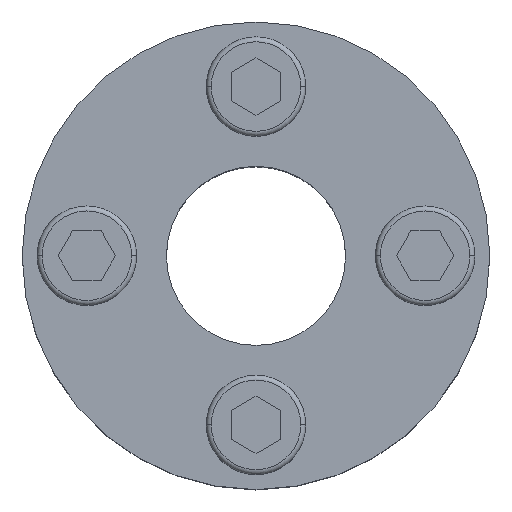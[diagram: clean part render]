
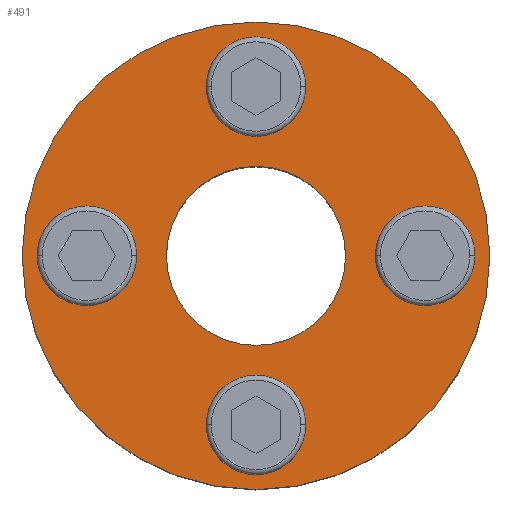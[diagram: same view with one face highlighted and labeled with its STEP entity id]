
A CAD part, top view. The second image highlights one B-rep face of the part: STEP entity #491.
In plain terms, the highlighted planar face has unit normal (0, 0, 1).
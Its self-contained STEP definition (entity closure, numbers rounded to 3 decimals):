
#12 = AXIS2_PLACEMENT_3D ( 'NONE', #852, #78, #349 ) ;
#27 = EDGE_LOOP ( 'NONE', ( #1366, #833 ) ) ;
#37 = CARTESIAN_POINT ( 'NONE',  ( -9., 0., 0. ) ) ;
#56 = CARTESIAN_POINT ( 'NONE',  ( -23.5, 0., 0. ) ) ;
#63 = FACE_BOUND ( 'NONE', #230, .T. ) ;
#75 = DIRECTION ( 'NONE',  ( -1., 0., 0. ) ) ;
#78 = DIRECTION ( 'NONE',  ( 0., 0., 1. ) ) ;
#81 = DIRECTION ( 'NONE',  ( -1., 0., 0. ) ) ;
#103 = AXIS2_PLACEMENT_3D ( 'NONE', #271, #266, #1313 ) ;
#141 = ORIENTED_EDGE ( 'NONE', *, *, #1276, .T. ) ;
#194 = EDGE_CURVE ( 'NONE', #1623, #1508, #1186, .T. ) ;
#220 = ORIENTED_EDGE ( 'NONE', *, *, #706, .T. ) ;
#221 = EDGE_CURVE ( 'NONE', #1272, #887, #434, .T. ) ;
#230 = EDGE_LOOP ( 'NONE', ( #1087, #565 ) ) ;
#231 = EDGE_CURVE ( 'NONE', #1585, #1513, #477, .T. ) ;
#252 = VERTEX_POINT ( 'NONE', #56 ) ;
#263 = CIRCLE ( 'NONE', #12, 5. ) ;
#266 = DIRECTION ( 'NONE',  ( 0., 0., 1. ) ) ;
#271 = CARTESIAN_POINT ( 'NONE',  ( 0., 0., 0. ) ) ;
#285 = EDGE_CURVE ( 'NONE', #1508, #1623, #838, .T. ) ;
#318 = CARTESIAN_POINT ( 'NONE',  ( 23.5, 0., 0. ) ) ;
#324 = DIRECTION ( 'NONE',  ( 0., 0., 1. ) ) ;
#349 = DIRECTION ( 'NONE',  ( -1., 0., 0. ) ) ;
#362 = CIRCLE ( 'NONE', #1637, 5. ) ;
#366 = CARTESIAN_POINT ( 'NONE',  ( 0., 0., 0. ) ) ;
#427 = EDGE_CURVE ( 'NONE', #605, #666, #1532, .T. ) ;
#434 = CIRCLE ( 'NONE', #1604, 9. ) ;
#438 = AXIS2_PLACEMENT_3D ( 'NONE', #1256, #982, #81 ) ;
#458 = CARTESIAN_POINT ( 'NONE',  ( -5., -17., 0. ) ) ;
#465 = DIRECTION ( 'NONE',  ( 1., 0., 0. ) ) ;
#470 = DIRECTION ( 'NONE',  ( 0., 0., 1. ) ) ;
#477 = CIRCLE ( 'NONE', #438, 5. ) ;
#491 = ADVANCED_FACE ( 'NONE', ( #508, #63, #1243, #1504, #956, #834 ), #609, .F. ) ;
#494 = AXIS2_PLACEMENT_3D ( 'NONE', #1416, #883, #1001 ) ;
#508 = FACE_BOUND ( 'NONE', #1427, .T. ) ;
#547 = DIRECTION ( 'NONE',  ( -1., 0., 0. ) ) ;
#565 = ORIENTED_EDGE ( 'NONE', *, *, #1618, .F. ) ;
#584 = ORIENTED_EDGE ( 'NONE', *, *, #221, .F. ) ;
#589 = ORIENTED_EDGE ( 'NONE', *, *, #1471, .F. ) ;
#605 = VERTEX_POINT ( 'NONE', #753 ) ;
#609 = PLANE ( 'NONE',  #1136 ) ;
#634 = ORIENTED_EDGE ( 'NONE', *, *, #1148, .F. ) ;
#666 = VERTEX_POINT ( 'NONE', #1163 ) ;
#674 = CIRCLE ( 'NONE', #879, 23.5 ) ;
#699 = CARTESIAN_POINT ( 'NONE',  ( 0., -17., 0. ) ) ;
#706 = EDGE_CURVE ( 'NONE', #1345, #252, #1143, .T. ) ;
#717 = CARTESIAN_POINT ( 'NONE',  ( -17., 0., 0. ) ) ;
#753 = CARTESIAN_POINT ( 'NONE',  ( 5., 17., 0. ) ) ;
#794 = ORIENTED_EDGE ( 'NONE', *, *, #194, .F. ) ;
#797 = DIRECTION ( 'NONE',  ( 1., 0., 0. ) ) ;
#800 = CARTESIAN_POINT ( 'NONE',  ( 17., 0., 0. ) ) ;
#812 = DIRECTION ( 'NONE',  ( 0., 0., 1. ) ) ;
#822 = AXIS2_PLACEMENT_3D ( 'NONE', #699, #470, #1357 ) ;
#828 = VERTEX_POINT ( 'NONE', #1431 ) ;
#832 = DIRECTION ( 'NONE',  ( 0., 0., 1. ) ) ;
#833 = ORIENTED_EDGE ( 'NONE', *, *, #231, .F. ) ;
#834 = FACE_OUTER_BOUND ( 'NONE', #1420, .T. ) ;
#838 = CIRCLE ( 'NONE', #843, 5. ) ;
#843 = AXIS2_PLACEMENT_3D ( 'NONE', #967, #832, #1371 ) ;
#846 = DIRECTION ( 'NONE',  ( -1., 0., 0. ) ) ;
#850 = EDGE_CURVE ( 'NONE', #1683, #828, #1479, .T. ) ;
#852 = CARTESIAN_POINT ( 'NONE',  ( 0., 17., 0. ) ) ;
#863 = CARTESIAN_POINT ( 'NONE',  ( 5., -17., 0. ) ) ;
#879 = AXIS2_PLACEMENT_3D ( 'NONE', #1041, #926, #797 ) ;
#883 = DIRECTION ( 'NONE',  ( 0., 0., 1. ) ) ;
#887 = VERTEX_POINT ( 'NONE', #37 ) ;
#888 = CARTESIAN_POINT ( 'NONE',  ( 12., 0., 0. ) ) ;
#926 = DIRECTION ( 'NONE',  ( 0., 0., 1. ) ) ;
#927 = AXIS2_PLACEMENT_3D ( 'NONE', #1650, #996, #75 ) ;
#936 = EDGE_LOOP ( 'NONE', ( #794, #1468 ) ) ;
#956 = FACE_BOUND ( 'NONE', #1241, .T. ) ;
#958 = AXIS2_PLACEMENT_3D ( 'NONE', #800, #812, #547 ) ;
#967 = CARTESIAN_POINT ( 'NONE',  ( 0., -17., 0. ) ) ;
#980 = AXIS2_PLACEMENT_3D ( 'NONE', #366, #983, #465 ) ;
#982 = DIRECTION ( 'NONE',  ( 0., 0., 1. ) ) ;
#983 = DIRECTION ( 'NONE',  ( 0., 0., 1. ) ) ;
#996 = DIRECTION ( 'NONE',  ( 0., 0., 1. ) ) ;
#998 = CIRCLE ( 'NONE', #494, 5. ) ;
#1001 = DIRECTION ( 'NONE',  ( -1., 0., 0. ) ) ;
#1041 = CARTESIAN_POINT ( 'NONE',  ( 0., 0., 0. ) ) ;
#1087 = ORIENTED_EDGE ( 'NONE', *, *, #850, .F. ) ;
#1101 = DIRECTION ( 'NONE',  ( 0., 0., -1. ) ) ;
#1136 = AXIS2_PLACEMENT_3D ( 'NONE', #1645, #1101, #1523 ) ;
#1143 = CIRCLE ( 'NONE', #103, 23.5 ) ;
#1145 = ORIENTED_EDGE ( 'NONE', *, *, #427, .F. ) ;
#1148 = EDGE_CURVE ( 'NONE', #887, #1272, #1286, .T. ) ;
#1163 = CARTESIAN_POINT ( 'NONE',  ( -5., 17., 0. ) ) ;
#1186 = CIRCLE ( 'NONE', #822, 5. ) ;
#1229 = CARTESIAN_POINT ( 'NONE',  ( 0., 0., 0. ) ) ;
#1241 = EDGE_LOOP ( 'NONE', ( #584, #634 ) ) ;
#1243 = FACE_BOUND ( 'NONE', #936, .T. ) ;
#1247 = DIRECTION ( 'NONE',  ( 1., 0., 0. ) ) ;
#1256 = CARTESIAN_POINT ( 'NONE',  ( -17., 0., 0. ) ) ;
#1257 = CARTESIAN_POINT ( 'NONE',  ( -22., 0., 0. ) ) ;
#1272 = VERTEX_POINT ( 'NONE', #1314 ) ;
#1276 = EDGE_CURVE ( 'NONE', #252, #1345, #674, .T. ) ;
#1286 = CIRCLE ( 'NONE', #980, 9. ) ;
#1313 = DIRECTION ( 'NONE',  ( 1., 0., 0. ) ) ;
#1314 = CARTESIAN_POINT ( 'NONE',  ( 9., 0., 0. ) ) ;
#1345 = VERTEX_POINT ( 'NONE', #318 ) ;
#1357 = DIRECTION ( 'NONE',  ( -1., 0., 0. ) ) ;
#1366 = ORIENTED_EDGE ( 'NONE', *, *, #1579, .F. ) ;
#1371 = DIRECTION ( 'NONE',  ( -1., 0., 0. ) ) ;
#1416 = CARTESIAN_POINT ( 'NONE',  ( 17., 0., 0. ) ) ;
#1420 = EDGE_LOOP ( 'NONE', ( #220, #141 ) ) ;
#1427 = EDGE_LOOP ( 'NONE', ( #589, #1145 ) ) ;
#1431 = CARTESIAN_POINT ( 'NONE',  ( 22., 0., 0. ) ) ;
#1468 = ORIENTED_EDGE ( 'NONE', *, *, #285, .F. ) ;
#1471 = EDGE_CURVE ( 'NONE', #666, #605, #263, .T. ) ;
#1479 = CIRCLE ( 'NONE', #958, 5. ) ;
#1494 = CARTESIAN_POINT ( 'NONE',  ( -12., 0., 0. ) ) ;
#1504 = FACE_BOUND ( 'NONE', #27, .T. ) ;
#1508 = VERTEX_POINT ( 'NONE', #863 ) ;
#1513 = VERTEX_POINT ( 'NONE', #1257 ) ;
#1523 = DIRECTION ( 'NONE',  ( -1., 0., 0. ) ) ;
#1532 = CIRCLE ( 'NONE', #927, 5. ) ;
#1579 = EDGE_CURVE ( 'NONE', #1513, #1585, #362, .T. ) ;
#1585 = VERTEX_POINT ( 'NONE', #1494 ) ;
#1604 = AXIS2_PLACEMENT_3D ( 'NONE', #1229, #324, #1247 ) ;
#1618 = EDGE_CURVE ( 'NONE', #828, #1683, #998, .T. ) ;
#1623 = VERTEX_POINT ( 'NONE', #458 ) ;
#1631 = DIRECTION ( 'NONE',  ( 0., 0., 1. ) ) ;
#1637 = AXIS2_PLACEMENT_3D ( 'NONE', #717, #1631, #846 ) ;
#1645 = CARTESIAN_POINT ( 'NONE',  ( -9., 0., 0. ) ) ;
#1650 = CARTESIAN_POINT ( 'NONE',  ( 0., 17., 0. ) ) ;
#1683 = VERTEX_POINT ( 'NONE', #888 ) ;
